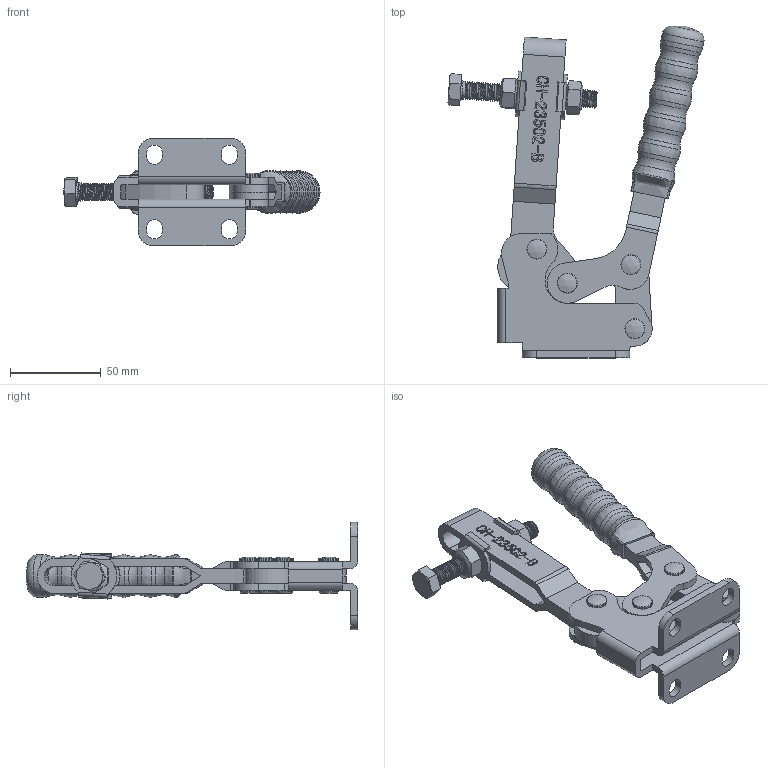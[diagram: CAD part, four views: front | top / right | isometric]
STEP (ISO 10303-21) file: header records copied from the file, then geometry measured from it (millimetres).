
FILE_DESCRIPTION(/* description */ ('STEP AP203'),/* implementation_level */ '2;1');
FILE_NAME(/* name */ 'E:\STRONA\Horizontal toggle clamp\CH-23502-B\CH-23502-B_OTWARTY.stp',/* time_stamp */ '2019-01-14T15:57:49+01:00',/* author */ ('Admin'),/* organization */ ('·L?¤¤?'),/* preprocessor_version */ 'ST-DEVELOPER v17.2',/* originating_system */ 'Autodesk Inventor 2019',/* authorisation */ '');
FILE_SCHEMA (('AUTOMOTIVE_DESIGN { 1 0 10303 214 3 1 1 }'));
Products named in the file (11): CH-23502-B_OTWARTY; CH-FC-107512___; M10___; 23502-B-07___; 23502-B-04___; 23502-B-03___; FW380___; 23502-B-02___; 23502-B-06___; 23502-B-05___; 23502-B-01___
Assembly tree (19 placements, depth 2):
  CH-23502-B_OTWARTY
    CH-FC-107512___
    23502-B-05___  x4
    23502-B-06___  x4
    M10___  x2
    23502-B-04___  x2
    23502-B-07___
    23502-B-03___
    FW380___  x2
    23502-B-02___
    23502-B-01___
Bounding box: 140.88 x 182.61 x 59 mm (x, y, z)
Volume: 134489.2 mm3; surface area: 78553.3 mm2
Topology: 19 solids, 19 shells, 727 faces, 2019 edges, 1367 vertices
Faces by surface type: plane 313, bspline 226, cylinder 123, cone 34, torus 23, sphere 8
Full cylindrical faces by diameter (mm): 4.4 x1, 5.6 x1, 7.5 x4, 7.95 x4, 8 x8, 8.4 x8, 9.8 x2, 10 x1, 10.1 x4, 11 x10, 11.2 x4, 23.323 x1
Entity records: 77043 total; most frequent: CARTESIAN_POINT 61768, ORIENTED_EDGE 3480, DIRECTION 2435, EDGE_CURVE 1740, VERTEX_POINT 1169, LINE 953, VECTOR 953, AXIS2_PLACEMENT_3D 741
